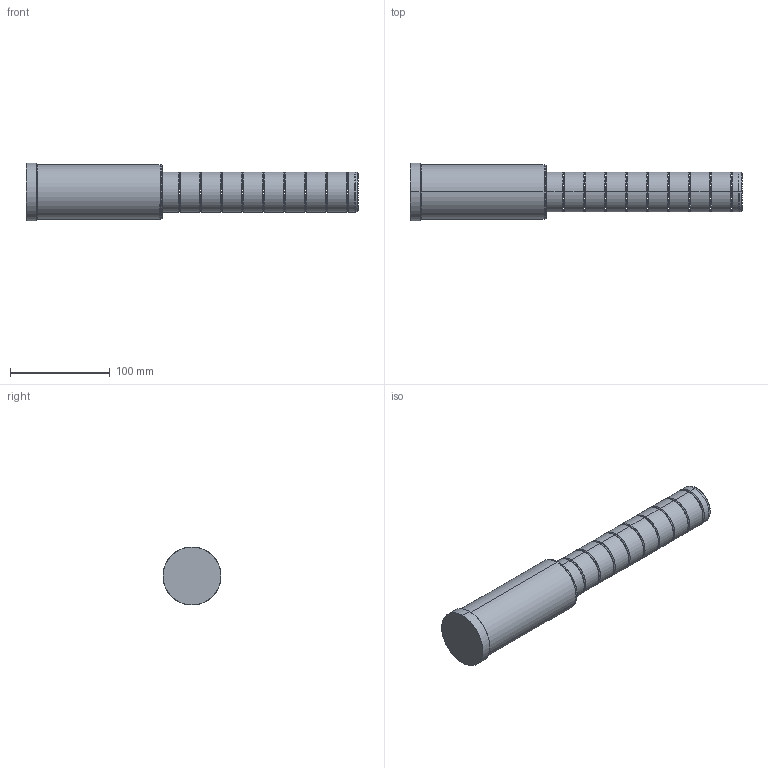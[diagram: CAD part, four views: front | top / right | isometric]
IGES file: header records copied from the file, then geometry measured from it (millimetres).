
Start section: SolidWorks IGES file using analytic representation for surfaces
Global section: file name: C:\Documents and Settings\kalite-mail\Desktop\IGS\D02\40\D02 - 40x136x196.IGS; native system: SolidWorks 2008; preprocessor: SolidWorks 2008; author: kalite-mail; date: 080617.103129; units: millimetre
Bounding box: 332 x 58 x 58 mm (x, y, z)
Surface area: 54103 mm2 (no closed solid volume)
Topology: 0 solids, 0 shells, 78 faces, 928 edges, 928 vertices
Faces by surface type: bspline 46, revolution 32
